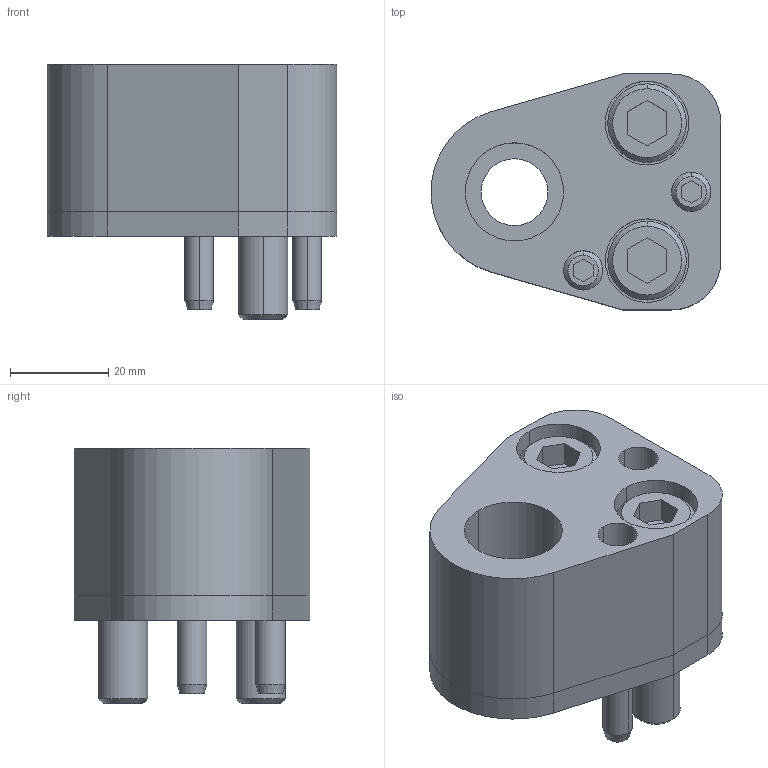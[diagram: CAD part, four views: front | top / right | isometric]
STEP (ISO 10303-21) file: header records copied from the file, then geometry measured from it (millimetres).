
FILE_DESCRIPTION(/* description */ (''),/* implementation_level */ '2;1');
FILE_NAME(/* name */ '3d_dp-ad20_02813_r00.stp',/* time_stamp */ '2011-01-10T14:15:59+09:00',/* author */ ('MISUMI'),/* organization */ (''),/* preprocessor_version */ 'ST-DEVELOPER v11',/* originating_system */ 'UGS - NX 5.0',/* authorisation */ '');
FILE_SCHEMA (('CONFIG_CONTROL_DESIGN'));
Length unit declared in the file: millimetre
Products named in the file (1): 3d_dp-ad20_02813_r00
Bounding box: 58.94 x 48 x 52 mm (x, y, z)
Volume: 68409.8 mm3; surface area: 26607.6 mm2
Topology: 8 solids, 8 shells, 155 faces, 346 edges, 222 vertices
Faces by surface type: plane 67, cylinder 62, cone 26
Entity records: 4480 total; most frequent: DIRECTION 804, CARTESIAN_POINT 778, ORIENTED_EDGE 692, EDGE_CURVE 346, AXIS2_PLACEMENT_3D 306, VERTEX_POINT 222, LINE 192, VECTOR 192
